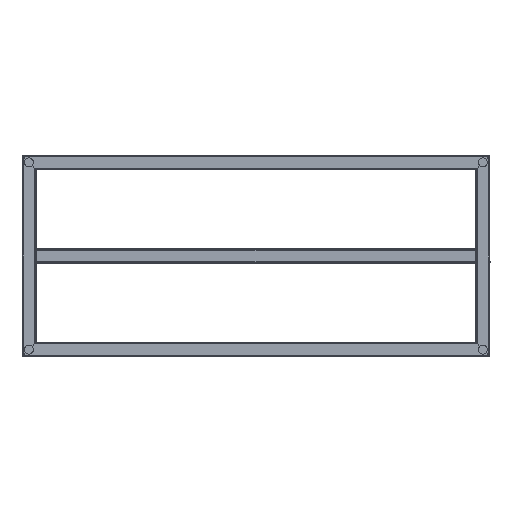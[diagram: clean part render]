
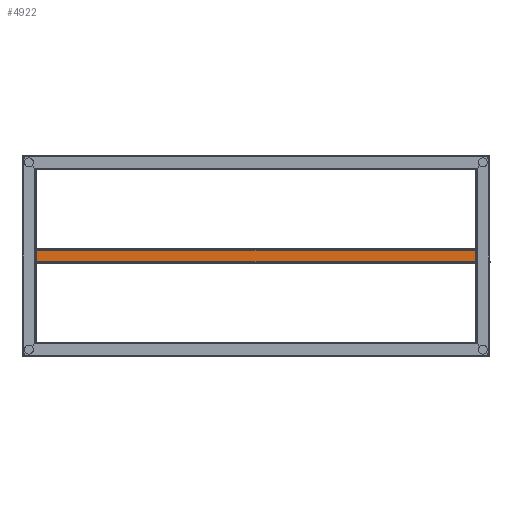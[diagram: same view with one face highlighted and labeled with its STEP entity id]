
A CAD part, front view. The second image highlights one B-rep face of the part: STEP entity #4922.
In plain terms, the highlighted planar face has unit normal (0, -1, 0) as drawn and (0, 1, 0) by its records, which use the part's own axes.
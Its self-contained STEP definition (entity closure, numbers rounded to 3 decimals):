
#109 = LINE ( 'NONE', #1748, #593 ) ;
#141 = VERTEX_POINT ( 'NONE', #165 ) ;
#165 = CARTESIAN_POINT ( 'NONE',  ( 6.5, 7.5, 470. ) ) ;
#194 = LINE ( 'NONE', #2342, #2747 ) ;
#239 = EDGE_CURVE ( 'NONE', #3675, #2984, #109, .T. ) ;
#249 = LINE ( 'NONE', #301, #756 ) ;
#272 = CARTESIAN_POINT ( 'NONE',  ( 6.5, 7.5, 0. ) ) ;
#301 = CARTESIAN_POINT ( 'NONE',  ( 6.5, 7.5, 470. ) ) ;
#305 = EDGE_CURVE ( 'NONE', #141, #3675, #249, .T. ) ;
#334 = EDGE_CURVE ( 'NONE', #141, #1144, #194, .T. ) ;
#593 = VECTOR ( 'NONE', #2180, 1000. ) ;
#612 = EDGE_LOOP ( 'NONE', ( #1107, #2051, #4442, #1949 ) ) ;
#756 = VECTOR ( 'NONE', #4841, 1000. ) ;
#1107 = ORIENTED_EDGE ( 'NONE', *, *, #239, .T. ) ;
#1144 = VERTEX_POINT ( 'NONE', #5219 ) ;
#1683 = DIRECTION ( 'NONE',  ( 0., 0., 1. ) ) ;
#1748 = CARTESIAN_POINT ( 'NONE',  ( 7.5, 7.5, 0. ) ) ;
#1888 = DIRECTION ( 'NONE',  ( -1., 0., 0. ) ) ;
#1949 = ORIENTED_EDGE ( 'NONE', *, *, #305, .T. ) ;
#2051 = ORIENTED_EDGE ( 'NONE', *, *, #3922, .T. ) ;
#2180 = DIRECTION ( 'NONE',  ( -1., 0., 0. ) ) ;
#2196 = LINE ( 'NONE', #4668, #3645 ) ;
#2342 = CARTESIAN_POINT ( 'NONE',  ( 7.5, 7.5, 470. ) ) ;
#2747 = VECTOR ( 'NONE', #1888, 1000. ) ;
#2777 = CARTESIAN_POINT ( 'NONE',  ( 7.5, 7.5, 470. ) ) ;
#2984 = VERTEX_POINT ( 'NONE', #3465 ) ;
#3465 = CARTESIAN_POINT ( 'NONE',  ( -6.5, 7.5, 0. ) ) ;
#3587 = AXIS2_PLACEMENT_3D ( 'NONE', #2777, #3996, #5262 ) ;
#3645 = VECTOR ( 'NONE', #1683, 1000. ) ;
#3675 = VERTEX_POINT ( 'NONE', #272 ) ;
#3922 = EDGE_CURVE ( 'NONE', #2984, #1144, #2196, .T. ) ;
#3971 = PLANE ( 'NONE',  #3587 ) ;
#3996 = DIRECTION ( 'NONE',  ( 0., -1., 0. ) ) ;
#4442 = ORIENTED_EDGE ( 'NONE', *, *, #334, .F. ) ;
#4668 = CARTESIAN_POINT ( 'NONE',  ( -6.5, 7.5, 470. ) ) ;
#4841 = DIRECTION ( 'NONE',  ( 0., 0., -1. ) ) ;
#4922 = ADVANCED_FACE ( 'NONE', ( #5235 ), #3971, .F. ) ;
#5219 = CARTESIAN_POINT ( 'NONE',  ( -6.5, 7.5, 470. ) ) ;
#5235 = FACE_OUTER_BOUND ( 'NONE', #612, .T. ) ;
#5262 = DIRECTION ( 'NONE',  ( 1., 0., 0. ) ) ;
